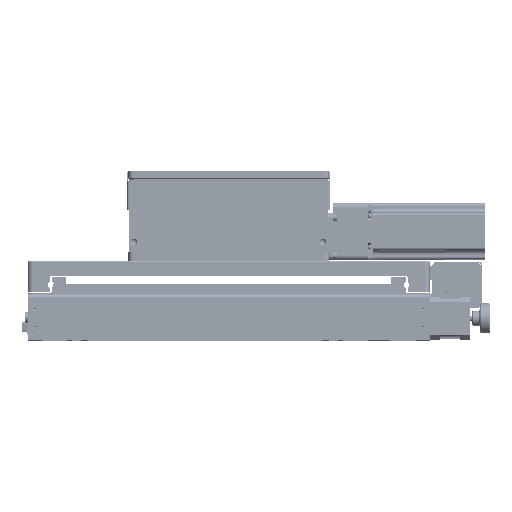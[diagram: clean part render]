
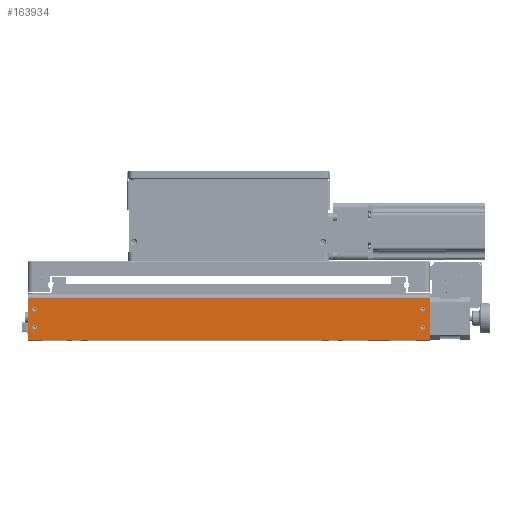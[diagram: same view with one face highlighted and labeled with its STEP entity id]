
A CAD part, left-side view. The second image highlights one B-rep face of the part: STEP entity #163934.
In plain terms, the highlighted planar face has unit normal (-1, 0, 0).
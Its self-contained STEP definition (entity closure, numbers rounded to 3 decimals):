
#884 = EDGE_LOOP ( 'NONE', ( #230928, #70629 ) ) ;
#3714 = EDGE_CURVE ( 'NONE', #87878, #129980, #99717, .T. ) ;
#3715 = DIRECTION ( 'NONE',  ( 0., 1., 0. ) ) ;
#4144 = DIRECTION ( 'NONE',  ( -1., 0., 0. ) ) ;
#5668 = FACE_OUTER_BOUND ( 'NONE', #92931, .T. ) ;
#12835 = CARTESIAN_POINT ( 'NONE',  ( -102.467, 108.528, 433.611 ) ) ;
#14083 = AXIS2_PLACEMENT_3D ( 'NONE', #223071, #22701, #168508 ) ;
#20712 = DIRECTION ( 'NONE',  ( 0., -1., 0. ) ) ;
#21151 = CARTESIAN_POINT ( 'NONE',  ( -102.467, 101.528, 420.611 ) ) ;
#22701 = DIRECTION ( 'NONE',  ( -1., 0., 0. ) ) ;
#25185 = VERTEX_POINT ( 'NONE', #124451 ) ;
#26775 = DIRECTION ( 'NONE',  ( -1., 0., 0. ) ) ;
#27065 = ORIENTED_EDGE ( 'NONE', *, *, #3714, .F. ) ;
#27548 = DIRECTION ( 'NONE',  ( 0., -1., 0. ) ) ;
#30606 = LINE ( 'NONE', #216588, #90232 ) ;
#31995 = EDGE_CURVE ( 'NONE', #219199, #87878, #30606, .T. ) ;
#32784 = CARTESIAN_POINT ( 'NONE',  ( -102.467, 110.778, 433.611 ) ) ;
#34420 = CARTESIAN_POINT ( 'NONE',  ( -102.467, 494.528, 433.611 ) ) ;
#35612 = CIRCLE ( 'NONE', #62008, 2.25 ) ;
#36881 = CARTESIAN_POINT ( 'NONE',  ( -102.467, 492.278, 451.611 ) ) ;
#44442 = CARTESIAN_POINT ( 'NONE',  ( -102.467, 106.278, 451.611 ) ) ;
#44907 = DIRECTION ( 'NONE',  ( -1., 0., 0. ) ) ;
#58727 = CARTESIAN_POINT ( 'NONE',  ( -102.467, 108.528, 433.611 ) ) ;
#61568 = DIRECTION ( 'NONE',  ( 0., -1., 0. ) ) ;
#62008 = AXIS2_PLACEMENT_3D ( 'NONE', #58727, #4144, #20712 ) ;
#65879 = ORIENTED_EDGE ( 'NONE', *, *, #156696, .F. ) ;
#68528 = CARTESIAN_POINT ( 'NONE',  ( -102.467, 501.528, 420.611 ) ) ;
#70629 = ORIENTED_EDGE ( 'NONE', *, *, #199433, .F. ) ;
#70845 = DIRECTION ( 'NONE',  ( 0., 0., -1. ) ) ;
#79698 = VERTEX_POINT ( 'NONE', #36881 ) ;
#79783 = DIRECTION ( 'NONE',  ( 0., -1., 0. ) ) ;
#80156 = EDGE_CURVE ( 'NONE', #79698, #184208, #97770, .T. ) ;
#80338 = VERTEX_POINT ( 'NONE', #164201 ) ;
#80436 = VERTEX_POINT ( 'NONE', #44442 ) ;
#81558 = DIRECTION ( 'NONE',  ( -1., 0., 0. ) ) ;
#83371 = ORIENTED_EDGE ( 'NONE', *, *, #117761, .F. ) ;
#83692 = DIRECTION ( 'NONE',  ( 0., 0., 1. ) ) ;
#87787 = EDGE_LOOP ( 'NONE', ( #140137, #65879 ) ) ;
#87878 = VERTEX_POINT ( 'NONE', #185186 ) ;
#90232 = VECTOR ( 'NONE', #70845, 1000. ) ;
#90408 = CARTESIAN_POINT ( 'NONE',  ( -102.467, 501.528, 420.611 ) ) ;
#92931 = EDGE_LOOP ( 'NONE', ( #104516, #114652, #145616, #27065 ) ) ;
#97194 = AXIS2_PLACEMENT_3D ( 'NONE', #118687, #207985, #79783 ) ;
#97770 = CIRCLE ( 'NONE', #100953, 2.25 ) ;
#98593 = AXIS2_PLACEMENT_3D ( 'NONE', #227847, #44907, #61568 ) ;
#98978 = CARTESIAN_POINT ( 'NONE',  ( -102.467, 301.528, 443.611 ) ) ;
#99717 = LINE ( 'NONE', #21151, #161928 ) ;
#100953 = AXIS2_PLACEMENT_3D ( 'NONE', #143693, #196683, #124720 ) ;
#101510 = CARTESIAN_POINT ( 'NONE',  ( -102.467, 494.528, 451.611 ) ) ;
#104516 = ORIENTED_EDGE ( 'NONE', *, *, #31995, .F. ) ;
#107500 = DIRECTION ( 'NONE',  ( -1., 0., 0. ) ) ;
#109112 = DIRECTION ( 'NONE',  ( 0., -1., 0. ) ) ;
#114652 = ORIENTED_EDGE ( 'NONE', *, *, #166146, .T. ) ;
#116023 = EDGE_CURVE ( 'NONE', #186167, #210870, #206305, .T. ) ;
#117761 = EDGE_CURVE ( 'NONE', #119412, #25185, #35612, .T. ) ;
#118687 = CARTESIAN_POINT ( 'NONE',  ( -102.467, 108.528, 451.611 ) ) ;
#119412 = VERTEX_POINT ( 'NONE', #32784 ) ;
#121545 = CIRCLE ( 'NONE', #98593, 2.25 ) ;
#121849 = ORIENTED_EDGE ( 'NONE', *, *, #171659, .F. ) ;
#121917 = FACE_BOUND ( 'NONE', #884, .T. ) ;
#124451 = CARTESIAN_POINT ( 'NONE',  ( -102.467, 106.278, 433.611 ) ) ;
#124720 = DIRECTION ( 'NONE',  ( 0., -1., 0. ) ) ;
#128139 = CIRCLE ( 'NONE', #97194, 2.25 ) ;
#129295 = CIRCLE ( 'NONE', #14083, 2.25 ) ;
#129980 = VERTEX_POINT ( 'NONE', #90408 ) ;
#134285 = EDGE_CURVE ( 'NONE', #80436, #80338, #121545, .T. ) ;
#136148 = PLANE ( 'NONE',  #195229 ) ;
#140137 = ORIENTED_EDGE ( 'NONE', *, *, #134285, .F. ) ;
#143693 = CARTESIAN_POINT ( 'NONE',  ( -102.467, 494.528, 451.611 ) ) ;
#144591 = FACE_BOUND ( 'NONE', #205051, .T. ) ;
#145616 = ORIENTED_EDGE ( 'NONE', *, *, #214293, .F. ) ;
#150919 = CARTESIAN_POINT ( 'NONE',  ( -102.467, 101.528, 463.111 ) ) ;
#154190 = CARTESIAN_POINT ( 'NONE',  ( -102.467, 496.778, 433.611 ) ) ;
#155969 = FACE_BOUND ( 'NONE', #167888, .T. ) ;
#156696 = EDGE_CURVE ( 'NONE', #80338, #80436, #128139, .T. ) ;
#158153 = VECTOR ( 'NONE', #3715, 1000. ) ;
#161928 = VECTOR ( 'NONE', #223091, 1000. ) ;
#163312 = AXIS2_PLACEMENT_3D ( 'NONE', #34420, #107500, #109112 ) ;
#163934 = ADVANCED_FACE ( 'NONE', ( #121917, #155969, #144591, #232433, #5668 ), #136148, .T. ) ;
#164201 = CARTESIAN_POINT ( 'NONE',  ( -102.467, 110.778, 451.611 ) ) ;
#166146 = EDGE_CURVE ( 'NONE', #219199, #232597, #206233, .T. ) ;
#167888 = EDGE_LOOP ( 'NONE', ( #121849, #188207 ) ) ;
#168508 = DIRECTION ( 'NONE',  ( 0., -1., 0. ) ) ;
#171659 = EDGE_CURVE ( 'NONE', #210870, #186167, #129295, .T. ) ;
#172723 = LINE ( 'NONE', #68528, #232161 ) ;
#175712 = CARTESIAN_POINT ( 'NONE',  ( -102.467, 496.778, 451.611 ) ) ;
#176204 = CARTESIAN_POINT ( 'NONE',  ( -102.467, 492.278, 433.611 ) ) ;
#178654 = CARTESIAN_POINT ( 'NONE',  ( -102.467, 501.528, 463.111 ) ) ;
#179325 = EDGE_CURVE ( 'NONE', #25185, #119412, #214034, .T. ) ;
#184208 = VERTEX_POINT ( 'NONE', #175712 ) ;
#185186 = CARTESIAN_POINT ( 'NONE',  ( -102.467, 101.528, 420.611 ) ) ;
#186167 = VERTEX_POINT ( 'NONE', #154190 ) ;
#188207 = ORIENTED_EDGE ( 'NONE', *, *, #116023, .F. ) ;
#189765 = DIRECTION ( 'NONE',  ( 0., -1., 0. ) ) ;
#195229 = AXIS2_PLACEMENT_3D ( 'NONE', #98978, #26775, #27548 ) ;
#195753 = ORIENTED_EDGE ( 'NONE', *, *, #179325, .F. ) ;
#196683 = DIRECTION ( 'NONE',  ( -1., 0., 0. ) ) ;
#199433 = EDGE_CURVE ( 'NONE', #184208, #79698, #214959, .T. ) ;
#200516 = AXIS2_PLACEMENT_3D ( 'NONE', #12835, #228262, #210018 ) ;
#203275 = CARTESIAN_POINT ( 'NONE',  ( -102.467, 101.528, 463.111 ) ) ;
#205051 = EDGE_LOOP ( 'NONE', ( #195753, #83371 ) ) ;
#206233 = LINE ( 'NONE', #203275, #158153 ) ;
#206305 = CIRCLE ( 'NONE', #163312, 2.25 ) ;
#207985 = DIRECTION ( 'NONE',  ( -1., 0., 0. ) ) ;
#210018 = DIRECTION ( 'NONE',  ( 0., -1., 0. ) ) ;
#210870 = VERTEX_POINT ( 'NONE', #176204 ) ;
#214034 = CIRCLE ( 'NONE', #200516, 2.25 ) ;
#214293 = EDGE_CURVE ( 'NONE', #129980, #232597, #172723, .T. ) ;
#214959 = CIRCLE ( 'NONE', #230629, 2.25 ) ;
#216588 = CARTESIAN_POINT ( 'NONE',  ( -102.467, 101.528, 420.611 ) ) ;
#219199 = VERTEX_POINT ( 'NONE', #150919 ) ;
#223071 = CARTESIAN_POINT ( 'NONE',  ( -102.467, 494.528, 433.611 ) ) ;
#223091 = DIRECTION ( 'NONE',  ( 0., 1., 0. ) ) ;
#227847 = CARTESIAN_POINT ( 'NONE',  ( -102.467, 108.528, 451.611 ) ) ;
#228262 = DIRECTION ( 'NONE',  ( -1., 0., 0. ) ) ;
#230629 = AXIS2_PLACEMENT_3D ( 'NONE', #101510, #81558, #189765 ) ;
#230928 = ORIENTED_EDGE ( 'NONE', *, *, #80156, .F. ) ;
#232161 = VECTOR ( 'NONE', #83692, 1000. ) ;
#232433 = FACE_BOUND ( 'NONE', #87787, .T. ) ;
#232597 = VERTEX_POINT ( 'NONE', #178654 ) ;
